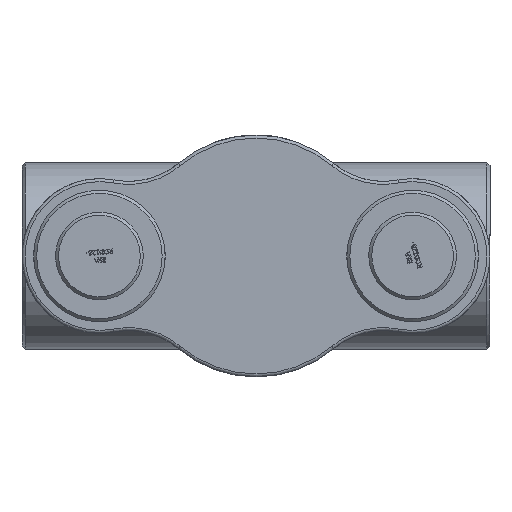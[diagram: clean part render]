
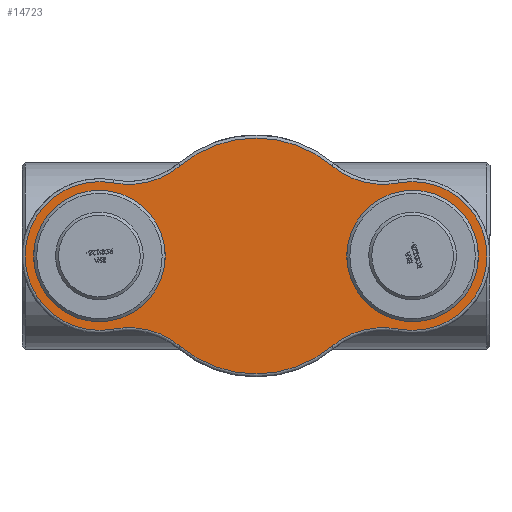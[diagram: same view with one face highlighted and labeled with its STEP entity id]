
A CAD part, front view. The second image highlights one B-rep face of the part: STEP entity #14723.
In plain terms, the highlighted planar face has unit normal (0, -1, 0) as drawn and (0, 0, -1) by its records, which use the part's own axes.
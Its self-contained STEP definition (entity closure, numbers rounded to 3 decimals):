
#3860=PLANE('',#15673);
#4266=FACE_BOUND('',#5233,.T.);
#4267=FACE_BOUND('',#5234,.T.);
#4371=FACE_OUTER_BOUND('',#5232,.T.);
#5232=EDGE_LOOP('',(#10166,#10167,#10168,#10169,#10170,#10171,#10172,#10173));
#5233=EDGE_LOOP('',(#10174));
#5234=EDGE_LOOP('',(#10175));
#6196=CIRCLE('',#15672,80.5);
#6197=CIRCLE('',#15674,123.);
#6198=CIRCLE('',#15675,133.);
#6199=CIRCLE('',#15676,195.);
#6200=CIRCLE('',#15677,133.);
#6201=CIRCLE('',#15678,123.);
#6202=CIRCLE('',#15679,133.);
#6203=CIRCLE('',#15680,195.);
#6204=CIRCLE('',#15681,133.);
#6205=CIRCLE('',#15682,80.5);
#6384=VERTEX_POINT('',#19133);
#6385=VERTEX_POINT('',#19136);
#6386=VERTEX_POINT('',#19137);
#6387=VERTEX_POINT('',#19139);
#6388=VERTEX_POINT('',#19141);
#6389=VERTEX_POINT('',#19143);
#6390=VERTEX_POINT('',#19145);
#6391=VERTEX_POINT('',#19147);
#6392=VERTEX_POINT('',#19149);
#6393=VERTEX_POINT('',#19152);
#7896=EDGE_CURVE('',#6384,#6384,#6196,.T.);
#7897=EDGE_CURVE('',#6385,#6386,#6197,.T.);
#7898=EDGE_CURVE('',#6387,#6385,#6198,.T.);
#7899=EDGE_CURVE('',#6388,#6387,#6199,.T.);
#7900=EDGE_CURVE('',#6389,#6388,#6200,.T.);
#7901=EDGE_CURVE('',#6390,#6389,#6201,.T.);
#7902=EDGE_CURVE('',#6391,#6390,#6202,.T.);
#7903=EDGE_CURVE('',#6392,#6391,#6203,.T.);
#7904=EDGE_CURVE('',#6386,#6392,#6204,.T.);
#7905=EDGE_CURVE('',#6393,#6393,#6205,.T.);
#10166=ORIENTED_EDGE('',*,*,#7897,.F.);
#10167=ORIENTED_EDGE('',*,*,#7898,.F.);
#10168=ORIENTED_EDGE('',*,*,#7899,.F.);
#10169=ORIENTED_EDGE('',*,*,#7900,.F.);
#10170=ORIENTED_EDGE('',*,*,#7901,.F.);
#10171=ORIENTED_EDGE('',*,*,#7902,.F.);
#10172=ORIENTED_EDGE('',*,*,#7903,.F.);
#10173=ORIENTED_EDGE('',*,*,#7904,.F.);
#10174=ORIENTED_EDGE('',*,*,#7905,.F.);
#10175=ORIENTED_EDGE('',*,*,#7896,.F.);
#14723=ADVANCED_FACE('',(#4371,#4266,#4267),#3860,.F.);
#15672=AXIS2_PLACEMENT_3D('',#19134,#16401,#16402);
#15673=AXIS2_PLACEMENT_3D('',#19135,#16403,#16404);
#15674=AXIS2_PLACEMENT_3D('',#19138,#16405,#16406);
#15675=AXIS2_PLACEMENT_3D('',#19140,#16407,#16408);
#15676=AXIS2_PLACEMENT_3D('',#19142,#16409,#16410);
#15677=AXIS2_PLACEMENT_3D('',#19144,#16411,#16412);
#15678=AXIS2_PLACEMENT_3D('',#19146,#16413,#16414);
#15679=AXIS2_PLACEMENT_3D('',#19148,#16415,#16416);
#15680=AXIS2_PLACEMENT_3D('',#19150,#16417,#16418);
#15681=AXIS2_PLACEMENT_3D('',#19151,#16419,#16420);
#15682=AXIS2_PLACEMENT_3D('',#19153,#16421,#16422);
#16401=DIRECTION('center_axis',(0.,0.,-1.));
#16402=DIRECTION('ref_axis',(1.,0.,0.));
#16403=DIRECTION('center_axis',(0.,0.,1.));
#16404=DIRECTION('ref_axis',(1.,0.,0.));
#16405=DIRECTION('center_axis',(0.,0.,1.));
#16406=DIRECTION('ref_axis',(-1.,0.,0.));
#16407=DIRECTION('center_axis',(0.,0.,-1.));
#16408=DIRECTION('ref_axis',(0.251,-0.968,0.));
#16409=DIRECTION('center_axis',(0.,0.,1.));
#16410=DIRECTION('ref_axis',(0.,1.,0.));
#16411=DIRECTION('center_axis',(0.,0.,-1.));
#16412=DIRECTION('ref_axis',(-0.251,-0.968,0.));
#16413=DIRECTION('center_axis',(0.,0.,1.));
#16414=DIRECTION('ref_axis',(1.,0.,0.));
#16415=DIRECTION('center_axis',(0.,0.,-1.));
#16416=DIRECTION('ref_axis',(-0.251,0.968,0.));
#16417=DIRECTION('center_axis',(0.,0.,1.));
#16418=DIRECTION('ref_axis',(0.,-1.,0.));
#16419=DIRECTION('center_axis',(0.,0.,-1.));
#16420=DIRECTION('ref_axis',(0.251,0.968,0.));
#16421=DIRECTION('center_axis',(0.,0.,-1.));
#16422=DIRECTION('ref_axis',(1.,0.,0.));
#19133=CARTESIAN_POINT('',(178.5,0.,0.));
#19134=CARTESIAN_POINT('Origin',(259.,0.,0.));
#19135=CARTESIAN_POINT('Origin',(0.,0.,0.));
#19136=CARTESIAN_POINT('',(-235.781,120.789,0.));
#19137=CARTESIAN_POINT('',(-235.781,-120.789,0.));
#19138=CARTESIAN_POINT('Origin',(-259.,0.,0.));
#19139=CARTESIAN_POINT('',(-125.248,149.459,0.));
#19140=CARTESIAN_POINT('Origin',(-210.674,251.397,0.));
#19141=CARTESIAN_POINT('',(125.248,149.459,0.));
#19142=CARTESIAN_POINT('Origin',(0.,0.,0.));
#19143=CARTESIAN_POINT('',(235.781,120.789,0.));
#19144=CARTESIAN_POINT('Origin',(210.674,251.397,0.));
#19145=CARTESIAN_POINT('',(235.781,-120.789,0.));
#19146=CARTESIAN_POINT('Origin',(259.,0.,0.));
#19147=CARTESIAN_POINT('',(125.248,-149.459,0.));
#19148=CARTESIAN_POINT('Origin',(210.674,-251.397,0.));
#19149=CARTESIAN_POINT('',(-125.248,-149.459,0.));
#19150=CARTESIAN_POINT('Origin',(0.,0.,0.));
#19151=CARTESIAN_POINT('Origin',(-210.674,-251.397,0.));
#19152=CARTESIAN_POINT('',(-339.5,0.,0.));
#19153=CARTESIAN_POINT('Origin',(-259.,0.,0.));
